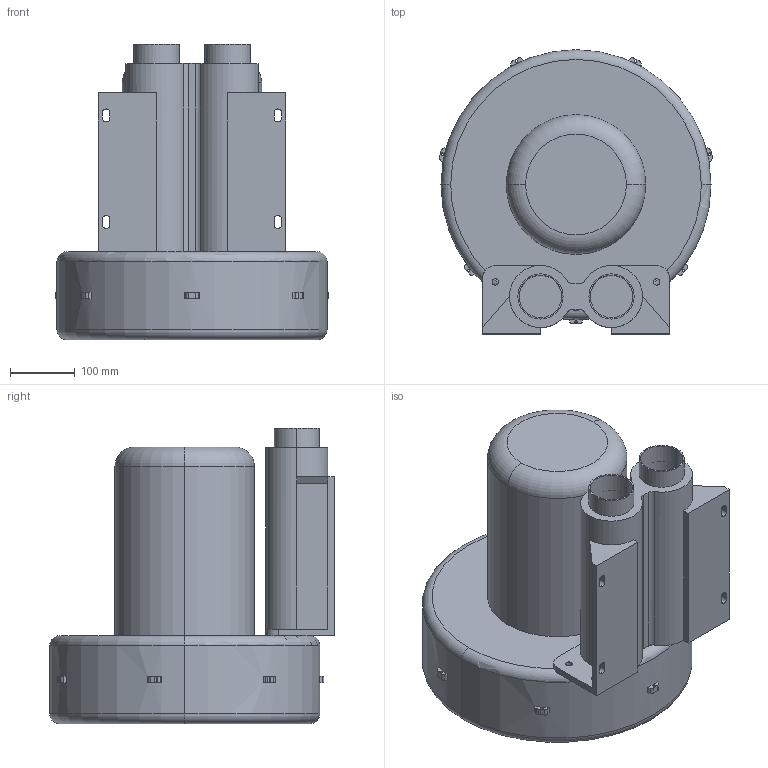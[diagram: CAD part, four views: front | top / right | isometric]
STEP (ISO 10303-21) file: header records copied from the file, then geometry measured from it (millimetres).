
FILE_DESCRIPTION (( 'STEP AP203' ), '1' );
FILE_NAME ('3700.STEP', '2019-05-09T03:43:35', ( 'User' ), ( 'www.dadighost.com' ), 'SwSTEP 2.0', 'SolidWorks 2014', '' );
FILE_SCHEMA (( 'CONFIG_CONTROL_DESIGN' ));
Length unit declared in the file: millimetre
Products named in the file (1): 3700
Bounding box: 422.52 x 440.5 x 457 mm (x, y, z)
Volume: 32842182.9 mm3; surface area: 1002774.1 mm2
Topology: 1 solids, 1 shells, 155 faces, 410 edges, 267 vertices
Faces by surface type: plane 78, cylinder 71, torus 6
Entity records: 4998 total; most frequent: DIRECTION 911, CARTESIAN_POINT 833, ORIENTED_EDGE 820, EDGE_CURVE 410, AXIS2_PLACEMENT_3D 345, VERTEX_POINT 267, VECTOR 221, LINE 221
